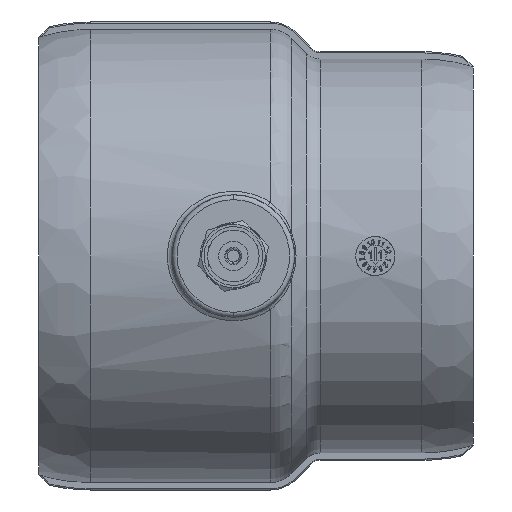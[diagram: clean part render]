
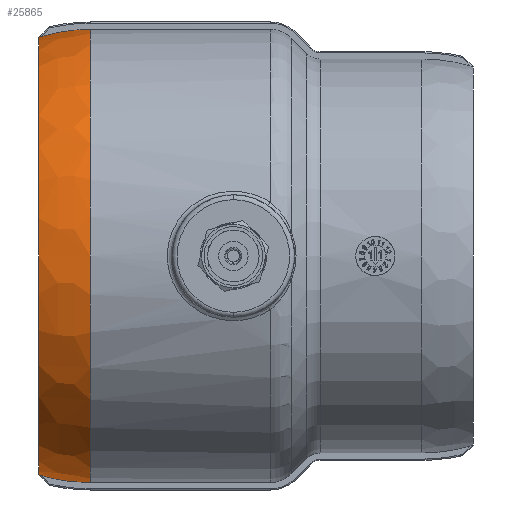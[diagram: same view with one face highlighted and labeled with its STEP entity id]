
A CAD part, front view. The second image highlights one B-rep face of the part: STEP entity #25865.
In plain terms, the highlighted toroidal (fillet/blend) face has major radius 11.3 mm and minor radius 35 mm.
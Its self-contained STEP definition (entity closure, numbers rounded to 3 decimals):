
#8616 = CARTESIAN_POINT ( 'NONE',  ( -29.247, -1., 46.289 ) ) ;
#8832 = CARTESIAN_POINT ( 'NONE',  ( -39.254, -1., -44.828 ) ) ;
#8836 = CARTESIAN_POINT ( 'NONE',  ( -29.247, 0., 0. ) ) ;
#8839 = B_SPLINE_CURVE_WITH_KNOTS ( 'NONE', 3,
 ( #8896, #8895, #8894, #8892, #8891, #8890, #8888, #8887 ),
 .UNSPECIFIED., .F., .F.,
 ( 4, 2, 2, 4 ),
 ( 0., 0., 0., 0.001 ),
 .UNSPECIFIED. ) ;
#8853 = AXIS2_PLACEMENT_3D ( 'NONE', #8836, #8886, #8885 ) ;
#8877 = CARTESIAN_POINT ( 'NONE',  ( -39.745, -0.805, 44.681 ) ) ;
#8880 = CARTESIAN_POINT ( 'NONE',  ( -29.247, -1., -46.289 ) ) ;
#8885 = DIRECTION ( 'NONE',  ( 0., 0., 1. ) ) ;
#8886 = DIRECTION ( 'NONE',  ( -1., 0., 0. ) ) ;
#8887 = CARTESIAN_POINT ( 'NONE',  ( -39.745, -0.805, 44.681 ) ) ;
#8888 = CARTESIAN_POINT ( 'NONE',  ( -39.726, -0.849, 44.687 ) ) ;
#8890 = CARTESIAN_POINT ( 'NONE',  ( -39.688, -0.881, 44.698 ) ) ;
#8891 = CARTESIAN_POINT ( 'NONE',  ( -39.609, -0.93, 44.721 ) ) ;
#8892 = CARTESIAN_POINT ( 'NONE',  ( -39.566, -0.948, 44.734 ) ) ;
#8894 = CARTESIAN_POINT ( 'NONE',  ( -39.435, -0.989, 44.774 ) ) ;
#8895 = CARTESIAN_POINT ( 'NONE',  ( -39.345, -1., 44.801 ) ) ;
#8896 = CARTESIAN_POINT ( 'NONE',  ( -39.254, -1., 44.828 ) ) ;
#8897 = CIRCLE ( 'NONE', #8853, 46.3 ) ;
#9041 = DIRECTION ( 'NONE',  ( 0., 0., 1. ) ) ;
#9052 = B_SPLINE_CURVE_WITH_KNOTS ( 'NONE', 3,
 ( #9091, #9090, #9089, #9088 ),
 .UNSPECIFIED., .F., .F.,
 ( 4, 4 ),
 ( 0.001, 0.002 ),
 .UNSPECIFIED. ) ;
#9057 = AXIS2_PLACEMENT_3D ( 'NONE', #9073, #9071, #9041 ) ;
#9070 = CARTESIAN_POINT ( 'NONE',  ( -29.247, -1., -46.289 ) ) ;
#9071 = DIRECTION ( 'NONE',  ( -1., 0., 0. ) ) ;
#9072 = B_SPLINE_CURVE_WITH_KNOTS ( 'NONE', 3,
 ( #9105, #9104, #9103, #9102, #9101, #9100, #9099, #9098, #9096, #9095 ),
 .UNSPECIFIED., .F., .F.,
 ( 4, 2, 2, 2, 4 ),
 ( 0.257, 0.26, 0.261, 0.262, 0.267 ),
 .UNSPECIFIED. ) ;
#9073 = CARTESIAN_POINT ( 'NONE',  ( -29.247, 0., 0. ) ) ;
#9074 = CARTESIAN_POINT ( 'NONE',  ( -32.541, -1., -46.173 ) ) ;
#9075 = CARTESIAN_POINT ( 'NONE',  ( -30.897, -1., -46.289 ) ) ;
#9076 = TOROIDAL_SURFACE ( 'NONE', #9057, 11.3, 35. ) ;
#9077 = B_SPLINE_CURVE_WITH_KNOTS ( 'NONE', 3,
 ( #9070, #9075, #9074, #9121, #9120, #9119, #9118, #9117, #9116, #9115, #9114, #9113, #9112, #9111 ),
 .UNSPECIFIED., .F., .F.,
 ( 4, 2, 1, 2, 2, 1, 2, 4 ),
 ( 0.272, 0.277, 0.278, 0.278, 0.279, 0.279, 0.28, 0.283 ),
 .UNSPECIFIED. ) ;
#9078 = CARTESIAN_POINT ( 'NONE',  ( -39.254, -1., -44.828 ) ) ;
#9079 = CARTESIAN_POINT ( 'NONE',  ( -39.345, -1., -44.801 ) ) ;
#9080 = CARTESIAN_POINT ( 'NONE',  ( -39.437, -0.988, -44.773 ) ) ;
#9081 = CARTESIAN_POINT ( 'NONE',  ( -39.567, -0.948, -44.734 ) ) ;
#9082 = CARTESIAN_POINT ( 'NONE',  ( -39.61, -0.93, -44.721 ) ) ;
#9083 = CARTESIAN_POINT ( 'NONE',  ( -39.689, -0.881, -44.698 ) ) ;
#9084 = CARTESIAN_POINT ( 'NONE',  ( -39.726, -0.849, -44.687 ) ) ;
#9085 = CARTESIAN_POINT ( 'NONE',  ( -39.745, -0.805, -44.681 ) ) ;
#9086 = FACE_OUTER_BOUND ( 'NONE', #25882, .T. ) ;
#9087 = B_SPLINE_CURVE_WITH_KNOTS ( 'NONE', 3,
 ( #9085, #9084, #9083, #9082, #9081, #9080, #9079, #9078 ),
 .UNSPECIFIED., .F., .F.,
 ( 4, 2, 2, 4 ),
 ( 0., 0., 0., 0.001 ),
 .UNSPECIFIED. ) ;
#9088 = CARTESIAN_POINT ( 'NONE',  ( -39.745, -0.805, -44.681 ) ) ;
#9089 = CARTESIAN_POINT ( 'NONE',  ( -39.747, -0.537, -44.686 ) ) ;
#9090 = CARTESIAN_POINT ( 'NONE',  ( -39.747, -0.268, -44.688 ) ) ;
#9091 = CARTESIAN_POINT ( 'NONE',  ( -39.747, 0., -44.688 ) ) ;
#9093 = CARTESIAN_POINT ( 'NONE',  ( -39.745, -0.805, -44.681 ) ) ;
#9095 = CARTESIAN_POINT ( 'NONE',  ( -29.247, -1., 46.289 ) ) ;
#9096 = CARTESIAN_POINT ( 'NONE',  ( -30.914, -1., 46.289 ) ) ;
#9098 = CARTESIAN_POINT ( 'NONE',  ( -32.58, -1., 46.171 ) ) ;
#9099 = CARTESIAN_POINT ( 'NONE',  ( -34.663, -1., 45.87 ) ) ;
#9100 = CARTESIAN_POINT ( 'NONE',  ( -35.078, -1., 45.803 ) ) ;
#9101 = CARTESIAN_POINT ( 'NONE',  ( -35.925, -1., 45.649 ) ) ;
#9102 = CARTESIAN_POINT ( 'NONE',  ( -36.347, -1., 45.564 ) ) ;
#9103 = CARTESIAN_POINT ( 'NONE',  ( -37.604, -1., 45.288 ) ) ;
#9104 = CARTESIAN_POINT ( 'NONE',  ( -38.433, -1., 45.073 ) ) ;
#9105 = CARTESIAN_POINT ( 'NONE',  ( -39.254, -1., 44.828 ) ) ;
#9107 = CIRCLE ( 'NONE', #9151, 44.688 ) ;
#9108 = CARTESIAN_POINT ( 'NONE',  ( -39.747, 0., -44.688 ) ) ;
#9109 = CARTESIAN_POINT ( 'NONE',  ( -39.747, 0., 44.688 ) ) ;
#9110 = B_SPLINE_CURVE_WITH_KNOTS ( 'NONE', 3,
 ( #9158, #9157, #9155, #9154 ),
 .UNSPECIFIED., .F., .F.,
 ( 4, 4 ),
 ( 0.001, 0.002 ),
 .UNSPECIFIED. ) ;
#9111 = CARTESIAN_POINT ( 'NONE',  ( -39.254, -1., -44.828 ) ) ;
#9112 = CARTESIAN_POINT ( 'NONE',  ( -38.418, -1., -45.077 ) ) ;
#9113 = CARTESIAN_POINT ( 'NONE',  ( -37.572, -1., -45.296 ) ) ;
#9114 = CARTESIAN_POINT ( 'NONE',  ( -36.286, -1., -45.577 ) ) ;
#9115 = CARTESIAN_POINT ( 'NONE',  ( -35.8, -1., -45.673 ) ) ;
#9116 = CARTESIAN_POINT ( 'NONE',  ( -35.311, -1., -45.76 ) ) ;
#9117 = CARTESIAN_POINT ( 'NONE',  ( -35.203, -1., -45.779 ) ) ;
#9118 = CARTESIAN_POINT ( 'NONE',  ( -35.151, -1., -45.788 ) ) ;
#9119 = CARTESIAN_POINT ( 'NONE',  ( -34.997, -1., -45.814 ) ) ;
#9120 = CARTESIAN_POINT ( 'NONE',  ( -34.691, -1., -45.864 ) ) ;
#9121 = CARTESIAN_POINT ( 'NONE',  ( -34.384, -1., -45.911 ) ) ;
#9144 = CARTESIAN_POINT ( 'NONE',  ( -39.254, -1., 44.828 ) ) ;
#9148 = DIRECTION ( 'NONE',  ( 0., 0., 1. ) ) ;
#9149 = DIRECTION ( 'NONE',  ( -1., 0., 0. ) ) ;
#9150 = CARTESIAN_POINT ( 'NONE',  ( -39.747, 0., 0. ) ) ;
#9151 = AXIS2_PLACEMENT_3D ( 'NONE', #9150, #9149, #9148 ) ;
#9154 = CARTESIAN_POINT ( 'NONE',  ( -39.745, -0.805, 44.681 ) ) ;
#9155 = CARTESIAN_POINT ( 'NONE',  ( -39.747, -0.537, 44.686 ) ) ;
#9157 = CARTESIAN_POINT ( 'NONE',  ( -39.747, -0.268, 44.688 ) ) ;
#9158 = CARTESIAN_POINT ( 'NONE',  ( -39.747, 0., 44.688 ) ) ;
#25739 = VERTEX_POINT ( 'NONE', #8616 ) ;
#25780 = EDGE_CURVE ( 'NONE', #25889, #25801, #8839, .T. ) ;
#25783 = VERTEX_POINT ( 'NONE', #8832 ) ;
#25785 = EDGE_CURVE ( 'NONE', #25797, #25739, #8897, .T. ) ;
#25797 = VERTEX_POINT ( 'NONE', #8880 ) ;
#25801 = VERTEX_POINT ( 'NONE', #8877 ) ;
#25858 = EDGE_CURVE ( 'NONE', #25878, #25868, #9052, .T. ) ;
#25859 = ORIENTED_EDGE ( 'NONE', *, *, #25785, .T. ) ;
#25860 = EDGE_CURVE ( 'NONE', #25868, #25783, #9087, .T. ) ;
#25861 = EDGE_CURVE ( 'NONE', #25797, #25783, #9077, .T. ) ;
#25862 = ORIENTED_EDGE ( 'NONE', *, *, #25861, .F. ) ;
#25864 = ORIENTED_EDGE ( 'NONE', *, *, #25858, .T. ) ;
#25865 = ADVANCED_FACE ( 'NONE', ( #9086 ), #9076, .T. ) ;
#25866 = VERTEX_POINT ( 'NONE', #9109 ) ;
#25867 = ORIENTED_EDGE ( 'NONE', *, *, #25869, .F. ) ;
#25868 = VERTEX_POINT ( 'NONE', #9093 ) ;
#25869 = EDGE_CURVE ( 'NONE', #25889, #25739, #9072, .T. ) ;
#25870 = ORIENTED_EDGE ( 'NONE', *, *, #25876, .F. ) ;
#25871 = ORIENTED_EDGE ( 'NONE', *, *, #25780, .T. ) ;
#25872 = EDGE_CURVE ( 'NONE', #25866, #25801, #9110, .T. ) ;
#25873 = ORIENTED_EDGE ( 'NONE', *, *, #25860, .T. ) ;
#25874 = ORIENTED_EDGE ( 'NONE', *, *, #25872, .F. ) ;
#25876 = EDGE_CURVE ( 'NONE', #25878, #25866, #9107, .T. ) ;
#25878 = VERTEX_POINT ( 'NONE', #9108 ) ;
#25882 = EDGE_LOOP ( 'NONE', ( #25867, #25871, #25874, #25870, #25864, #25873, #25862, #25859 ) ) ;
#25889 = VERTEX_POINT ( 'NONE', #9144 ) ;
